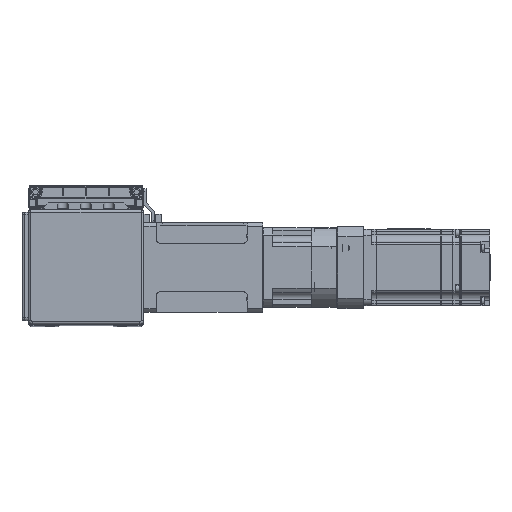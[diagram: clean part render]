
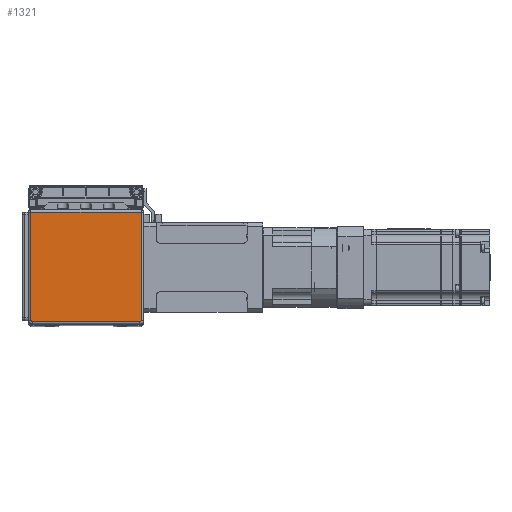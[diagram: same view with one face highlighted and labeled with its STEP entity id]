
A CAD part, top view. The second image highlights one B-rep face of the part: STEP entity #1321.
In plain terms, the highlighted planar face has unit normal (0, 0, 1).
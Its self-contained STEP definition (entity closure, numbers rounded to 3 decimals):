
#1321 = ADVANCED_FACE ( 'NONE', ( #53703 ), #58565, .T. ) ;
#7245 = AXIS2_PLACEMENT_3D ( 'NONE', #33761, #33764, #33781 ) ;
#7296 = AXIS2_PLACEMENT_3D ( 'NONE', #33673, #33668, #33694 ) ;
#8147 = AXIS2_PLACEMENT_3D ( 'NONE', #58567, #58616, #58633 ) ;
#33631 = DIRECTION ( 'NONE',  ( -1., 0., 0. ) ) ;
#33650 = CARTESIAN_POINT ( 'NONE',  ( -43., 26.901, 55. ) ) ;
#33668 = DIRECTION ( 'NONE',  ( 0., 0., 1. ) ) ;
#33673 = CARTESIAN_POINT ( 'NONE',  ( -42., -57.599, 55. ) ) ;
#33694 = DIRECTION ( 'NONE',  ( 1., 0., 0. ) ) ;
#33712 = CARTESIAN_POINT ( 'NONE',  ( 42., -58.599, 55. ) ) ;
#33726 = CARTESIAN_POINT ( 'NONE',  ( -43., -57.599, 55. ) ) ;
#33727 = DIRECTION ( 'NONE',  ( 0., -1., 0. ) ) ;
#33741 = DIRECTION ( 'NONE',  ( 1., 0., 0. ) ) ;
#33745 = DIRECTION ( 'NONE',  ( 0., 1., 0. ) ) ;
#33761 = CARTESIAN_POINT ( 'NONE',  ( 42., -57.599, 55. ) ) ;
#33764 = DIRECTION ( 'NONE',  ( 0., 0., 1. ) ) ;
#33765 = CARTESIAN_POINT ( 'NONE',  ( 43., 26.901, 55. ) ) ;
#33781 = DIRECTION ( 'NONE',  ( 1., 0., 0. ) ) ;
#34686 = CIRCLE ( 'NONE', #7296, 1. ) ;
#34692 = VECTOR ( 'NONE', #33631, 1000. ) ;
#34702 = LINE ( 'NONE', #33650, #34692 ) ;
#34726 = VECTOR ( 'NONE', #33745, 1000. ) ;
#34727 = LINE ( 'NONE', #33726, #34730 ) ;
#34730 = VECTOR ( 'NONE', #33727, 1000. ) ;
#34737 = LINE ( 'NONE', #33712, #34755 ) ;
#34755 = VECTOR ( 'NONE', #33741, 1000. ) ;
#34772 = LINE ( 'NONE', #33765, #34726 ) ;
#34776 = CIRCLE ( 'NONE', #7245, 1. ) ;
#36500 = EDGE_CURVE ( 'NONE', #42136, #42027, #34702, .T. ) ;
#36512 = EDGE_CURVE ( 'NONE', #42047, #42053, #34686, .T. ) ;
#36527 = EDGE_CURVE ( 'NONE', #42027, #42047, #34727, .T. ) ;
#36532 = EDGE_CURVE ( 'NONE', #42053, #42226, #34737, .T. ) ;
#36543 = EDGE_CURVE ( 'NONE', #42226, #42179, #34776, .T. ) ;
#36548 = EDGE_CURVE ( 'NONE', #42179, #42136, #34772, .T. ) ;
#38011 = ORIENTED_EDGE ( 'NONE', *, *, #36548, .T. ) ;
#38048 = ORIENTED_EDGE ( 'NONE', *, *, #36500, .T. ) ;
#38052 = ORIENTED_EDGE ( 'NONE', *, *, #36543, .T. ) ;
#38062 = ORIENTED_EDGE ( 'NONE', *, *, #36532, .T. ) ;
#38085 = ORIENTED_EDGE ( 'NONE', *, *, #36512, .T. ) ;
#38092 = ORIENTED_EDGE ( 'NONE', *, *, #36527, .T. ) ;
#42027 = VERTEX_POINT ( 'NONE', #66963 ) ;
#42047 = VERTEX_POINT ( 'NONE', #66917 ) ;
#42053 = VERTEX_POINT ( 'NONE', #66944 ) ;
#42136 = VERTEX_POINT ( 'NONE', #67098 ) ;
#42179 = VERTEX_POINT ( 'NONE', #67032 ) ;
#42226 = VERTEX_POINT ( 'NONE', #67112 ) ;
#53703 = FACE_OUTER_BOUND ( 'NONE', #75671, .T. ) ;
#58565 = PLANE ( 'NONE',  #8147 ) ;
#58567 = CARTESIAN_POINT ( 'NONE',  ( -43., 26.901, 55. ) ) ;
#58616 = DIRECTION ( 'NONE',  ( 0., 0., 1. ) ) ;
#58633 = DIRECTION ( 'NONE',  ( 1., 0., 0. ) ) ;
#66917 = CARTESIAN_POINT ( 'NONE',  ( -43., -57.599, 55. ) ) ;
#66944 = CARTESIAN_POINT ( 'NONE',  ( -42., -58.599, 55. ) ) ;
#66963 = CARTESIAN_POINT ( 'NONE',  ( -43., 26.901, 55. ) ) ;
#67032 = CARTESIAN_POINT ( 'NONE',  ( 43., -57.599, 55. ) ) ;
#67098 = CARTESIAN_POINT ( 'NONE',  ( 43., 26.901, 55. ) ) ;
#67112 = CARTESIAN_POINT ( 'NONE',  ( 42., -58.599, 55. ) ) ;
#75671 = EDGE_LOOP ( 'NONE', ( #38011, #38048, #38092, #38085, #38062, #38052 ) ) ;
